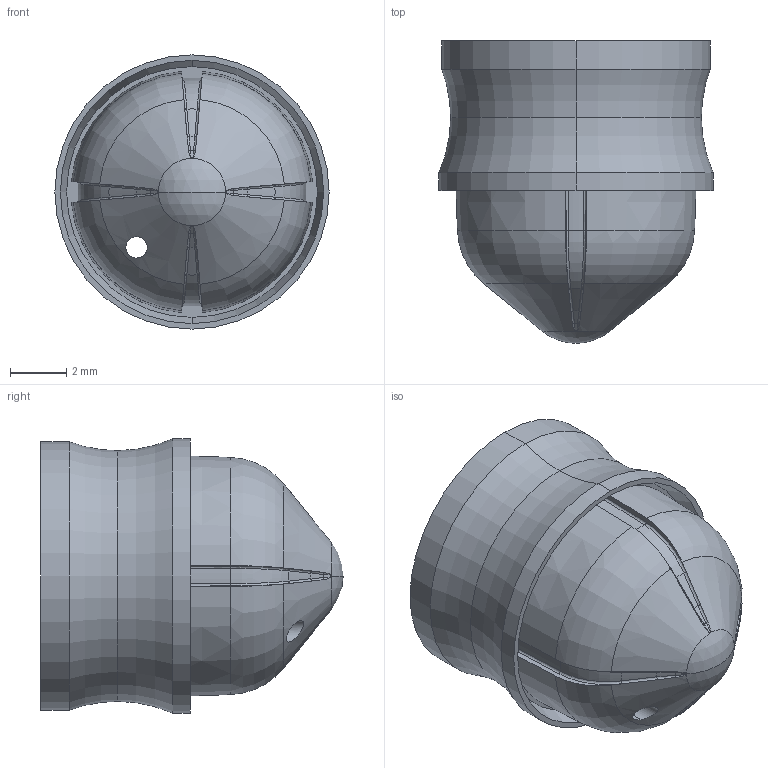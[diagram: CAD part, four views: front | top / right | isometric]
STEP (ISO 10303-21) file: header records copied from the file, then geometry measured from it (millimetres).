
FILE_DESCRIPTION (( 'STEP AP214' ), '1' );
FILE_NAME ('NORDSONEFD-7014426 PISTON O 3CC BL WIPER.STEP', '2019-10-09T20:44:14', ( '' ), ( '' ), 'SwSTEP 2.0', 'SolidWorks 2019', '' );
FILE_SCHEMA (( 'AUTOMOTIVE_DESIGN' ));
Length unit declared in the file: inch
Products named in the file (1): NORDSONEFD-7014426 PISTON O 3CC BL WIPER
Bounding box: 9.78 x 10.78 x 9.78 mm (x, y, z)
Volume: 161 mm3; surface area: 673.8 mm2
Topology: 1 solids, 1 shells, 249 faces, 666 edges, 428 vertices
Faces by surface type: bspline 88, plane 67, torus 34, cone 33, cylinder 23, sphere 4
Entity records: 11000 total; most frequent: CARTESIAN_POINT 5442, ORIENTED_EDGE 1332, DIRECTION 908, EDGE_CURVE 666, VERTEX_POINT 428, AXIS2_PLACEMENT_3D 367, B_SPLINE_CURVE_WITH_KNOTS 287, EDGE_LOOP 260
